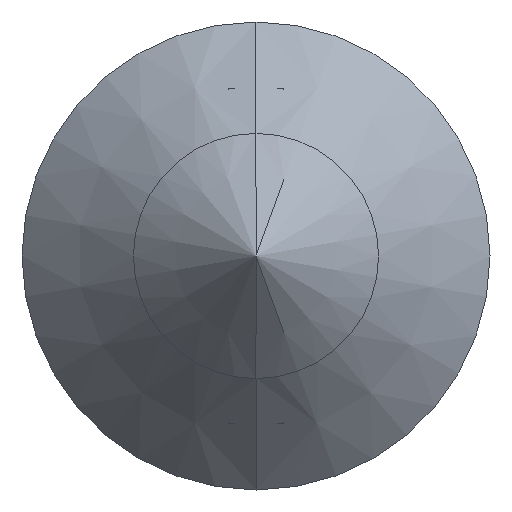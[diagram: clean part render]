
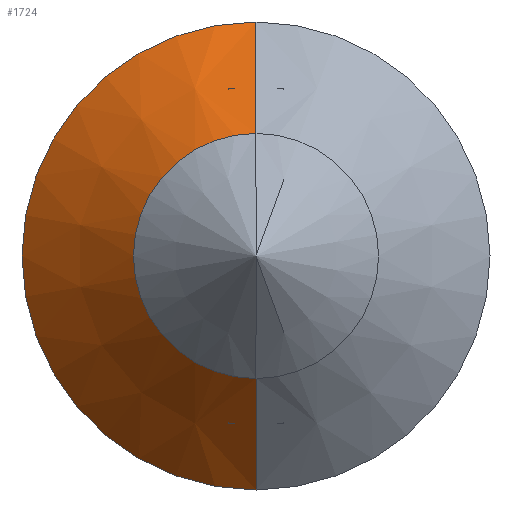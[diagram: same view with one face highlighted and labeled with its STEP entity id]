
A CAD part, left-side view. The second image highlights one B-rep face of the part: STEP entity #1724.
In plain terms, the highlighted conical face has half-angle 45 degrees and reference radius 2.1 mm.
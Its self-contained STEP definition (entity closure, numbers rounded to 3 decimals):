
#322 = CARTESIAN_POINT ( 'NONE',  ( 0., 0., 2.1 ) ) ;
#342 = VERTEX_POINT ( 'NONE', #411 ) ;
#411 = CARTESIAN_POINT ( 'NONE',  ( -1., 0., -1.1 ) ) ;
#606 = ORIENTED_EDGE ( 'NONE', *, *, #2767, .F. ) ;
#632 = EDGE_CURVE ( 'Arista2', #342, #1522, #1737, .T. ) ;
#638 = ORIENTED_EDGE ( 'NONE', *, *, #674, .F. ) ;
#668 = ORIENTED_EDGE ( 'NONE', *, *, #632, .T. ) ;
#674 = EDGE_CURVE ( 'Arista5', #1048, #2129, #1762, .T. ) ;
#722 = ORIENTED_EDGE ( 'NONE', *, *, #943, .T. ) ;
#943 = EDGE_CURVE ( 'NONE', #1522, #2129, #1344, .T. ) ;
#1005 = CARTESIAN_POINT ( 'NONE',  ( 0., 0., -2.1 ) ) ;
#1048 = VERTEX_POINT ( 'NONE', #2062 ) ;
#1111 = DIRECTION ( 'NONE',  ( 1., 0., 0. ) ) ;
#1126 = CARTESIAN_POINT ( 'NONE',  ( 0., 0., 0. ) ) ;
#1128 = DIRECTION ( 'NONE',  ( 0., 0., -1. ) ) ;
#1147 = AXIS2_PLACEMENT_3D ( 'NONE', #1126, #1111, #1128 ) ;
#1287 = VECTOR ( 'NONE', #2282, 1000. ) ;
#1344 = LINE ( 'NONE', #2245, #1287 ) ;
#1446 = CARTESIAN_POINT ( 'NONE',  ( -1., 0., 1.1 ) ) ;
#1522 = VERTEX_POINT ( 'NONE', #1446 ) ;
#1724 = ADVANCED_FACE ( 'NONE', ( #2576 ), #2406, .T. ) ;
#1737 = CIRCLE ( 'NONE', #1943, 1.1 ) ;
#1762 = CIRCLE ( 'NONE', #2536, 2.1 ) ;
#1943 = AXIS2_PLACEMENT_3D ( 'NONE', #2664, #2661, #2658 ) ;
#2062 = CARTESIAN_POINT ( 'NONE',  ( 0., 0., -2.1 ) ) ;
#2129 = VERTEX_POINT ( 'NONE', #322 ) ;
#2245 = CARTESIAN_POINT ( 'NONE',  ( 0., 0., 2.1 ) ) ;
#2282 = DIRECTION ( 'NONE',  ( 0.707, 0., 0.707 ) ) ;
#2406 = CONICAL_SURFACE ( 'NONE', #1147, 2.1, 0.785 ) ;
#2536 = AXIS2_PLACEMENT_3D ( 'NONE', #2610, #2609, #2604 ) ;
#2546 = DIRECTION ( 'NONE',  ( 0.707, 0., -0.707 ) ) ;
#2576 = FACE_OUTER_BOUND ( 'NONE', #2834, .T. ) ;
#2604 = DIRECTION ( 'NONE',  ( 0., 0., -1. ) ) ;
#2609 = DIRECTION ( 'NONE',  ( 1., 0., 0. ) ) ;
#2610 = CARTESIAN_POINT ( 'NONE',  ( 0., 0., 0. ) ) ;
#2658 = DIRECTION ( 'NONE',  ( 0., 0., -1. ) ) ;
#2661 = DIRECTION ( 'NONE',  ( 1., 0., 0. ) ) ;
#2664 = CARTESIAN_POINT ( 'NONE',  ( -1., 0., 0. ) ) ;
#2767 = EDGE_CURVE ( 'NONE', #342, #1048, #2904, .T. ) ;
#2834 = EDGE_LOOP ( 'NONE', ( #668, #722, #638, #606 ) ) ;
#2891 = VECTOR ( 'NONE', #2546, 1000. ) ;
#2904 = LINE ( 'NONE', #1005, #2891 ) ;
